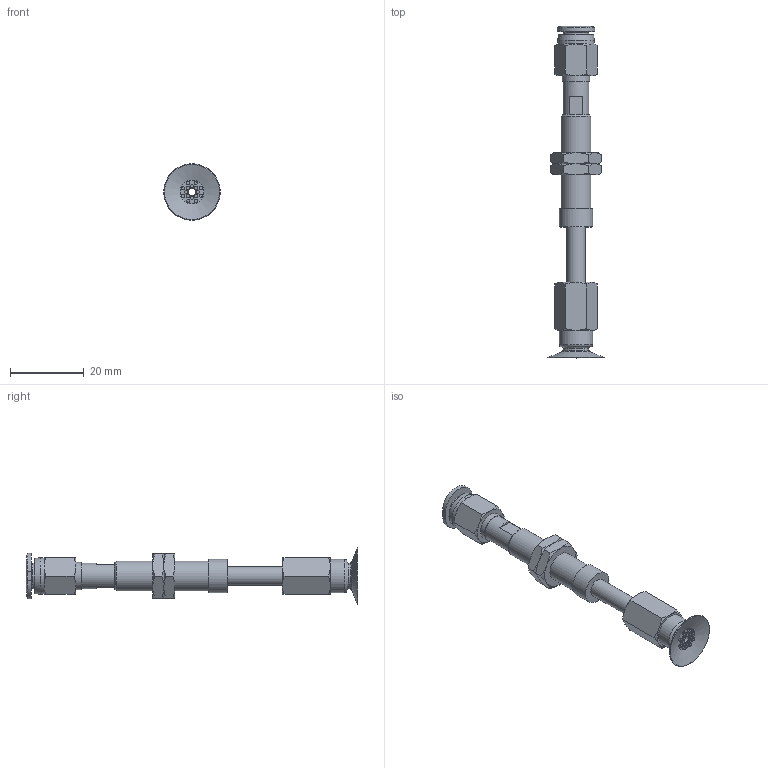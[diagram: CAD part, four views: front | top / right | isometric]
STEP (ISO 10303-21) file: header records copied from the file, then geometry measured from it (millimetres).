
FILE_DESCRIPTION(('STEP AP203'),'1');
FILE_NAME('-O.stp','2025-08-26T08:49:00',(' '),(' '),'Spatial InterOp 3D',' ',' ');
FILE_SCHEMA(('CONFIG_CONTROL_DESIGN'));
Length unit declared in the file: millimetre
Products named in the file (7): BNABPATS-15A-15-※-O; ADAPTER; NAPATS-10A-15--M; NAPATS-10A-15--F; Nut-10A-S; BPAG-15A-※_3D; PC-C_06-M5
Assembly tree (7 placements, depth 2):
  BNABPATS-15A-15-※-O
    ADAPTER
    NAPATS-10A-15--M
    NAPATS-10A-15--F
    Nut-10A-S  x2
    BPAG-15A-※_3D
    PC-C_06-M5
Bounding box: 15.3 x 89.98 x 15.3 mm (x, y, z)
Volume: 3959.4 mm3; surface area: 5969.6 mm2
Topology: 6 solids, 9 shells, 195 faces, 382 edges, 233 vertices
Faces by surface type: plane 74, cone 61, cylinder 42, torus 11, bspline 4, revolution 3
Full cylindrical faces by diameter (mm): 0.9 x16, 2 x3, 4 x4, 4.134 x1, 5 x3, 6 x2, 7 x3, 7.188 x2, 7.4 x1, 8 x1, 8.2 x1, 9 x2, 10 x1
Entity records: 4776 total; most frequent: CARTESIAN_POINT 1275, DIRECTION 675, ORIENTED_EDGE 520, AXIS2_PLACEMENT_3D 316, EDGE_LOOP 276, EDGE_CURVE 262, VERTEX_POINT 196, FACE_OUTER_BOUND 162
